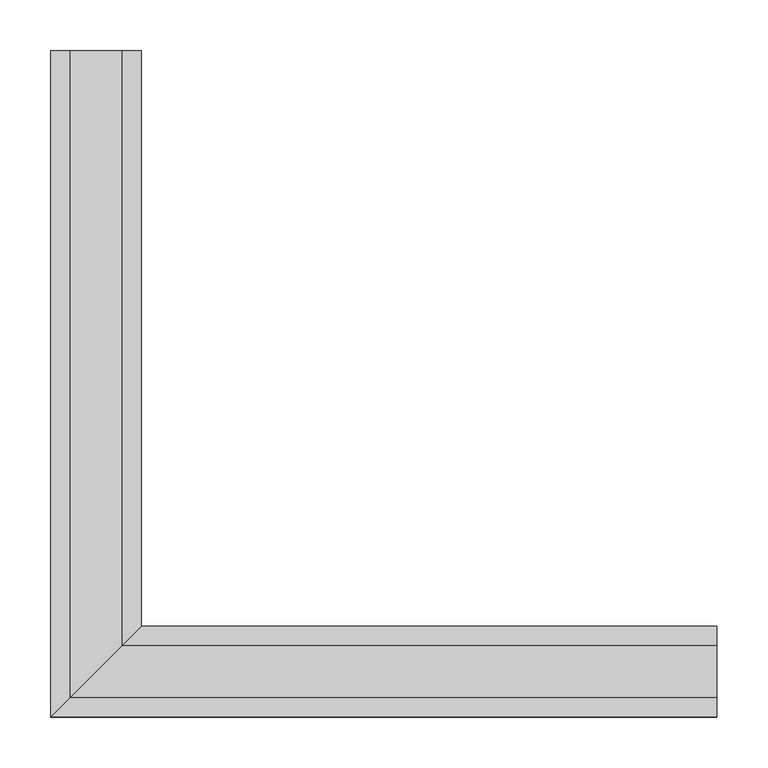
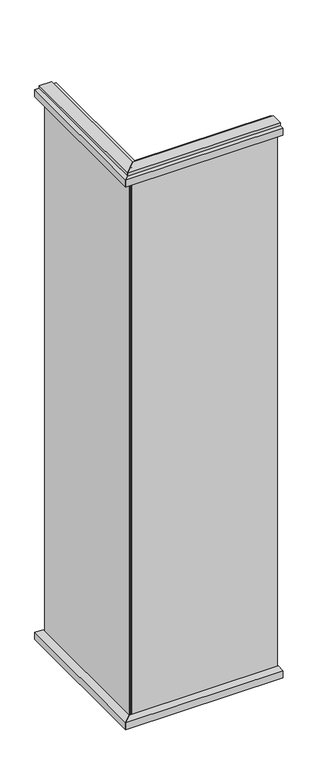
"""IFC4 building model written with IfcOpenShell, lengths in millimetres: furniture geometry, Allsteel - Aspect - Panel - 2-Way (12-11-24) : Allsteel - Aspect - Panel - 2-Way (12-11-24)."""

from ifc_helpers import new_model, si_unit, frame, origin, place, context, project, spatial, polyline, outline, extrude, faceted_brep, source, transform, mapped, element, save


def furniture_043c2162(model_context):
    return source(origin(), model_context, "Body", "SolidModel", [
        extrude(outline(polyline([(3.175, 609.6), (3.175, 3.175), (-3.175, 3.175), (-3.175, 609.6), (3.175, 609.6)])), frame((0.0, 0.0, 12.7), z_axis=(0.0, 0.0, 1.0), x_axis=(1.0, 0.0, 0.0)), (0.0, 0.0, 1.0), 2413.0),
        faceted_brep([(-25.4, 609.6, 2438.4), (25.4, 609.6, 2438.4), (25.4, 609.6, 2425.7), (44.45, 609.6, 2425.7), (44.45, 609.6, 2395.5375), (9.525, 609.6, 2395.5375), (9.525, 609.6, 2425.7), (-9.525, 609.6, 2425.7), (-9.525, 609.6, 2395.5375), (-44.45, 609.6, 2395.5375), (-44.45, 609.6, 2425.7), (-25.4, 609.6, 2425.7), (-25.4, -25.4, 2425.7), (-25.4, -25.4, 2438.4), (-44.45, -44.45, 2425.7), (-44.45, -44.45, 2395.5375), (-9.525, -9.525, 2395.5375), (-9.525, -9.525, 2425.7), (9.525, 9.525, 2425.7), (9.525, 9.525, 2395.5375), (44.45, 44.45, 2395.5375), (44.45, 44.45, 2425.7), (25.4, 25.4, 2425.7), (25.4, 25.4, 2438.4)], [[[0, 1, 2, 3, 4, 5, 6, 7, 8, 9, 10, 11]], [[11, 12, 13, 0]], [[10, 14, 12, 11]], [[9, 15, 14, 10]], [[8, 16, 15, 9]], [[7, 17, 16, 8]], [[6, 18, 17, 7]], [[5, 19, 18, 6]], [[4, 20, 19, 5]], [[3, 21, 20, 4]], [[2, 22, 21, 3]], [[1, 23, 22, 2]], [[0, 13, 23, 1]], [[12, 14, 15, 16, 17, 18, 19, 20, 21, 22, 23, 13]]]),
        faceted_brep([(25.4, 609.6, 0.0), (-25.4, 609.6, 0.0), (-25.4, 609.6, 12.7), (-44.45, 609.6, 12.7), (-44.45, 609.6, 42.8625), (-9.525, 609.6, 42.8625), (-9.525, 609.6, 12.7), (9.525, 609.6, 12.7), (9.525, 609.6, 42.8625), (44.45, 609.6, 42.8625), (44.45, 609.6, 12.7), (25.4, 609.6, 12.7), (25.4, 25.4, 12.7), (25.4, 25.4, 0.0), (44.45, 44.45, 12.7), (9.525, 9.525, 12.7), (9.525, 9.525, 42.8625), (-9.525, -9.525, 12.7), (-9.525, -9.525, 42.8625), (-25.4, -25.4, 12.7), (-44.45, -44.45, 12.7), (-25.4, -25.4, 0.0), (44.45, 44.45, 42.8625), (-44.45, -44.45, 42.8625)], [[[0, 1, 2, 3, 4, 5, 6, 7, 8, 9, 10, 11]], [[11, 12, 13, 0]], [[10, 14, 12, 11]], [[7, 15, 16, 8]], [[6, 17, 15, 7]], [[5, 18, 17, 6]], [[2, 19, 20, 3]], [[1, 21, 19, 2]], [[0, 13, 21, 1]], [[9, 22, 14, 10]], [[8, 16, 22, 9]], [[4, 23, 18, 5]], [[3, 20, 23, 4]], [[12, 14, 22, 16, 15, 17, 18, 23, 20, 19, 21, 13]]]),
        extrude(outline(polyline([(609.6, 3.175), (609.6, -3.175), (3.175, -3.175), (3.175, 3.175), (609.6, 3.175)])), frame((0.0, 0.0, 12.7), z_axis=(0.0, 0.0, 1.0), x_axis=(1.0, 0.0, 0.0)), (0.0, 0.0, 1.0), 2413.0),
        faceted_brep([(609.6, -25.4, 2438.4), (609.6, -25.4, 2425.7), (609.6, -44.45, 2425.7), (609.6, -44.45, 2395.5375), (609.6, -9.525, 2395.5375), (609.6, -9.525, 2425.7), (609.6, 9.525, 2425.7), (609.6, 9.525, 2395.5375), (609.6, 44.45, 2395.5375), (609.6, 44.45, 2425.7), (609.6, 25.4, 2425.7), (609.6, 25.4, 2438.4), (-25.4, -25.4, 2438.4), (-25.4, -25.4, 2425.7), (-44.45, -44.45, 2425.7), (-44.45, -44.45, 2395.5375), (-9.525, -9.525, 2395.5375), (-9.525, -9.525, 2425.7), (9.525, 9.525, 2425.7), (9.525, 9.525, 2395.5375), (44.45, 44.45, 2395.5375), (44.45, 44.45, 2425.7), (25.4, 25.4, 2425.7), (25.4, 25.4, 2438.4)], [[[0, 1, 2, 3, 4, 5, 6, 7, 8, 9, 10, 11]], [[1, 0, 12, 13]], [[2, 1, 13, 14]], [[3, 2, 14, 15]], [[4, 3, 15, 16]], [[5, 4, 16, 17]], [[6, 5, 17, 18]], [[7, 6, 18, 19]], [[8, 7, 19, 20]], [[9, 8, 20, 21]], [[10, 9, 21, 22]], [[11, 10, 22, 23]], [[0, 11, 23, 12]], [[13, 12, 23, 22, 21, 20, 19, 18, 17, 16, 15, 14]]]),
        faceted_brep([(609.6, 25.4, 0.0), (609.6, 25.4, 12.7), (609.6, 44.45, 12.7), (609.6, 44.45, 42.8625), (609.6, 9.525, 42.8625), (609.6, 9.525, 12.7), (609.6, -9.525, 12.7), (609.6, -9.525, 42.8625), (609.6, -44.45, 42.8625), (609.6, -44.45, 12.7), (609.6, -25.4, 12.7), (609.6, -25.4, 0.0), (25.4, 25.4, 0.0), (25.4, 25.4, 12.7), (44.45, 44.45, 12.7), (9.525, 9.525, 42.8625), (9.525, 9.525, 12.7), (-9.525, -9.525, 12.7), (-9.525, -9.525, 42.8625), (-44.45, -44.45, 12.7), (-25.4, -25.4, 12.7), (-25.4, -25.4, 0.0), (44.45, 44.45, 42.8625), (-44.45, -44.45, 42.8625)], [[[0, 1, 2, 3, 4, 5, 6, 7, 8, 9, 10, 11]], [[1, 0, 12, 13]], [[2, 1, 13, 14]], [[5, 4, 15, 16]], [[6, 5, 16, 17]], [[7, 6, 17, 18]], [[10, 9, 19, 20]], [[11, 10, 20, 21]], [[0, 11, 21, 12]], [[3, 2, 14, 22]], [[4, 3, 22, 15]], [[8, 7, 18, 23]], [[9, 8, 23, 19]], [[13, 12, 21, 20, 19, 23, 18, 17, 16, 15, 22, 14]]]),
        extrude(outline(polyline([(3.175, 3.175), (3.175, -3.175), (-3.175, -3.175), (-3.175, 3.175), (3.175, 3.175)])), frame((0.0, 0.0, 22.225), z_axis=(0.0, 0.0, 1.0), x_axis=(1.0, 0.0, 0.0)), (0.0, 0.0, 1.0), 2416.175),
    ])


if __name__ == "__main__":
    model = new_model("IFC4")
    model_context = context("Model", 3, world=origin())
    ifc_project = project(units=[si_unit("LENGTHUNIT", "METRE", prefix="MILLI")], contexts=[model_context])
    site = spatial("IfcSite", under=ifc_project)
    building = spatial("IfcBuilding", under=site)
    placement = place(None, origin())
    furniture_shape = furniture_043c2162(model_context)
    element("IfcFurniture", 1, ObjectType="Allsteel - Aspect - Panel - 2-Way (12-11-24) : Allsteel - Aspect - Panel - 2-Way (12-11-24)", at=placement, inside=building, context=model_context, shape_type="MappedRepresentation", body=[
        mapped(furniture_shape, transform((0.0, 0.0, 0.0), x_axis=(1.0, 0.0, 0.0), y_axis=(0.0, 1.0, 0.0), z_axis=(0.0, 0.0, 1.0))),
    ])
    save(model, "model.ifc")
